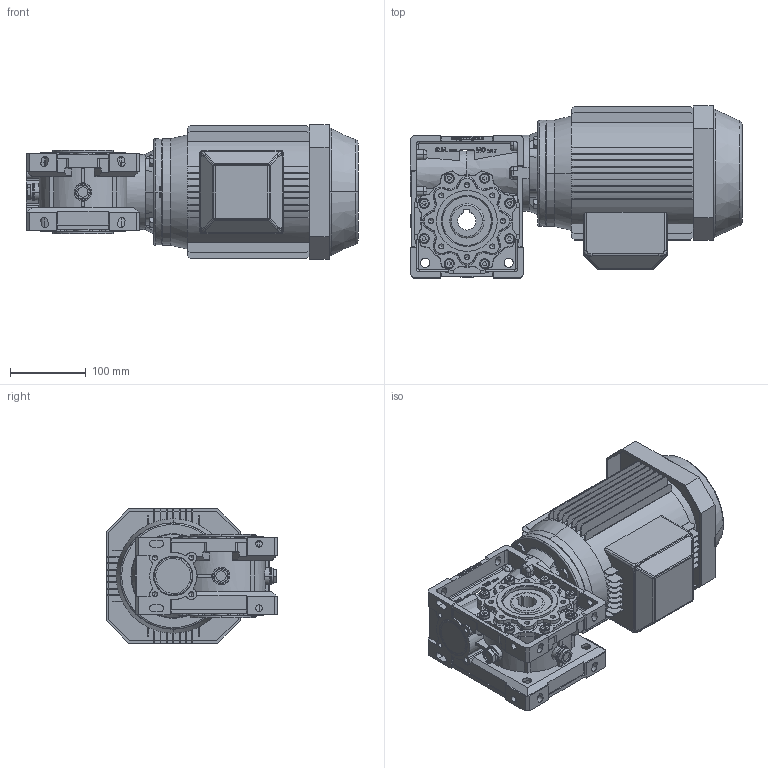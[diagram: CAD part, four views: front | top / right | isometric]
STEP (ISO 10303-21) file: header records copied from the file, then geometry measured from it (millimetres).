
FILE_DESCRIPTION((''),'2;1');
FILE_NAME('F:\Ghirri\3D\MV_V63\MV63_B14-90L.stp','2005-06-15T16:58:00',('Administrator'),(''),'Autodesk Inventor 9','Autodesk Inventor 9','');
FILE_SCHEMA(('AUTOMOTIVE_DESIGN { 1 0 10303 214 1 1 1 1 }'));
Length unit declared in the file: millimetre
Products named in the file (14): MV63_B14-90L; 4006301-A0; 4006304-A0; TCCE-8X16-ribassata; 4006308-A0; UNI-ISO 6194-1 (4) Tipo4 45 x  65 x  8; Capp-52-7; Guarnizione-tappo-3-8-gas; Tappo-3-8-gas-nero; DIN 3760  AS  (destra) AS - 35 x 62 x 7 - NBR; motori B14 90L; FM-63-75-D=140; UNI 5739  (Filetto regolare) M8 x 25
Assembly tree (28 placements, depth 3):
  MV63_B14-90L
    4006301-A0
    4006304-A0
    TCCE-8X16-ribassata  x8
    4006308-A0
    UNI-ISO 6194-1 (4) Tipo4 45 x  65 x  8  x2
    Capp-52-7
    Guarnizione-tappo-3-8-gas  x3
    Tappo-3-8-gas-nero  x3
    DIN 3760  AS  (destra) AS - 35 x 62 x 7 - NBR
    motori B14 90L
    FM-63-75-D=140
      FM-63-75-D=140
      UNI 5739  (Filetto regolare) M8 x 25  x4
Bounding box: 437.5 x 226.5 x 177 mm (x, y, z)
Volume: 7002840.8 mm3; surface area: 768071.3 mm2
Topology: 27 solids, 28 shells, 3958 faces, 10341 edges, 6549 vertices
Faces by surface type: plane 1520, cylinder 1218, bspline 936, cone 182, torus 98, sphere 4
Entity records: 132900 total; most frequent: CARTESIAN_POINT 46482, ORIENTED_EDGE 18770, DIRECTION 17086, EDGE_CURVE 9385, VERTEX_POINT 6047, AXIS2_PLACEMENT_3D 5977, VECTOR 5132, LINE 5132
